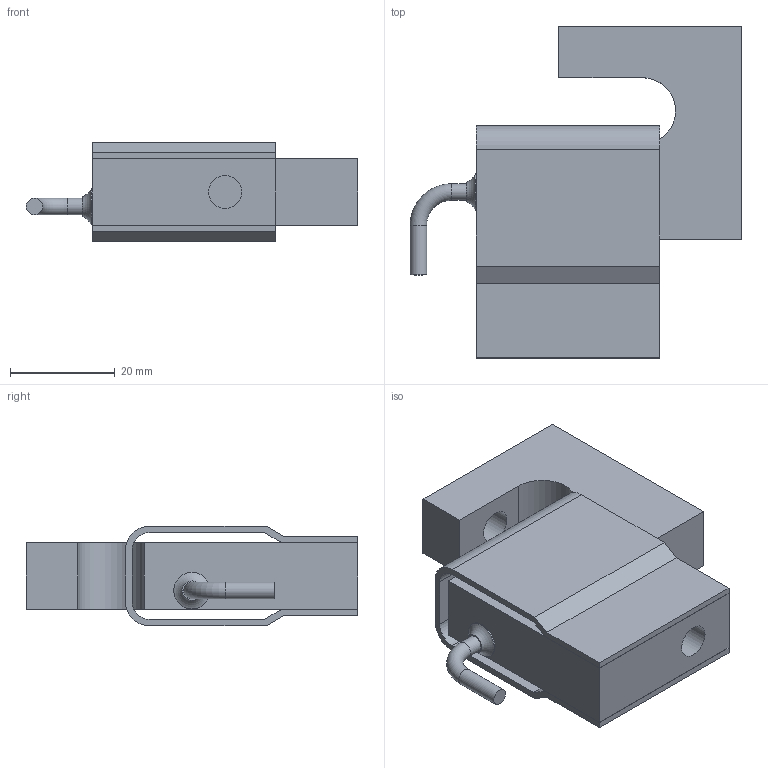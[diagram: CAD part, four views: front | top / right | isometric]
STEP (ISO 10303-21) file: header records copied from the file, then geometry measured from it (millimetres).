
FILE_DESCRIPTION (( 'STEP AP203' ), '1' );
FILE_NAME ('Interface SM-10 thru -250.STEP', '2015-04-24T17:49:53', ( '' ), ( '' ), 'SwSTEP 2.0', 'SolidWorks 2013', '' );
FILE_SCHEMA (( 'CONFIG_CONTROL_DESIGN' ));
Length unit declared in the file: inch
Products named in the file (1): Interface SM-10 thru -250
Bounding box: 63.5 x 63.5 x 19.05 mm (x, y, z)
Volume: 29664.7 mm3; surface area: 15673.3 mm2
Topology: 1 solids, 1 shells, 67 faces, 190 edges, 123 vertices
Faces by surface type: plane 50, cylinder 15, torus 2
Full cylindrical faces by diameter (mm): 3.175 x2, 6.35 x2, 6.985 x1
Entity records: 2197 total; most frequent: CARTESIAN_POINT 370, ORIENTED_EDGE 362, DIRECTION 348, EDGE_CURVE 181, LINE 150, VECTOR 150, VERTEX_POINT 121, AXIS2_PLACEMENT_3D 99
